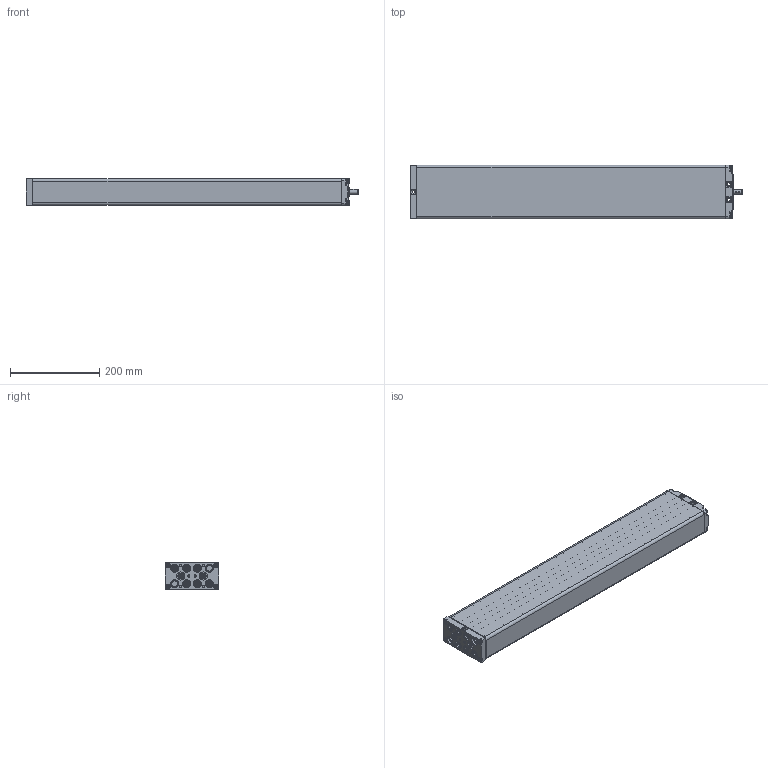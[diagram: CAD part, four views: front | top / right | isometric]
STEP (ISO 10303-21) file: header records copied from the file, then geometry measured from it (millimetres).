
FILE_DESCRIPTION(/* description */ ('Unknown'),/* implementation_level */ '2;1');
FILE_NAME(/* name */ '102.00195 Pumpe PB 8430 W',/* time_stamp */ '2016-11-24T16:50:45+01:00',/* author */ ('Unknown'),/* organization */ ('Unknown'),/* preprocessor_version */ 'ST-DEVELOPER v16.7',/* originating_system */ 'DEX',/* authorisation */ $);
FILE_SCHEMA (('AUTOMOTIVE_DESIGN {1 0 10303 214 3 1 1}'));
Products named in the file (15): 102.00195; 115.10025; 125.00031; 115.00007; 142.00021; 125.00021; 142.00013; 125.00145; 115.00140; 126.00006; 122.00040; 119.00045; 126.00036; 142.00057; 142.00017
Assembly tree (29 placements, depth 3):
  102.00195
    115.10025  x8
      125.00031
      115.00007
      142.00021
      125.00021
    142.00013  x8
    125.00145
    115.00140
      126.00006
      122.00040
    119.00045
    126.00036
    142.00057
    142.00017  x2
Bounding box: 744.5 x 120 x 60.3 mm (x, y, z)
Volume: 895120.5 mm3; surface area: 619224.4 mm2
Topology: 40 solids, 40 shells, 2092 faces, 4790 edges, 2801 vertices
Faces by surface type: plane 723, cylinder 481, bspline 377, cone 351, torus 102, sphere 58
Full cylindrical faces by diameter (mm): 3.5 x8, 4.1 x8, 4.134 x4, 4.2 x8, 4.917 x2, 5 x8, 5.8 x4, 6 x2, 6.8 x1, 6.917 x16, 8 x17, 9 x8, 9.8 x8, 10 x5, 10.4 x1, 10.5 x4, 12.5 x8, 13 x26, 13.9 x16, 14 x1, 18 x11, 19 x1
Entity records: 59893 total; most frequent: CARTESIAN_POINT 28814, ORIENTED_EDGE 5026, DIRECTION 4365, EDGE_CURVE 2513, AXIS2_PLACEMENT_3D 1695, VERTEX_POINT 1584, FACE_BOUND 1391, EDGE_LOOP 1390
